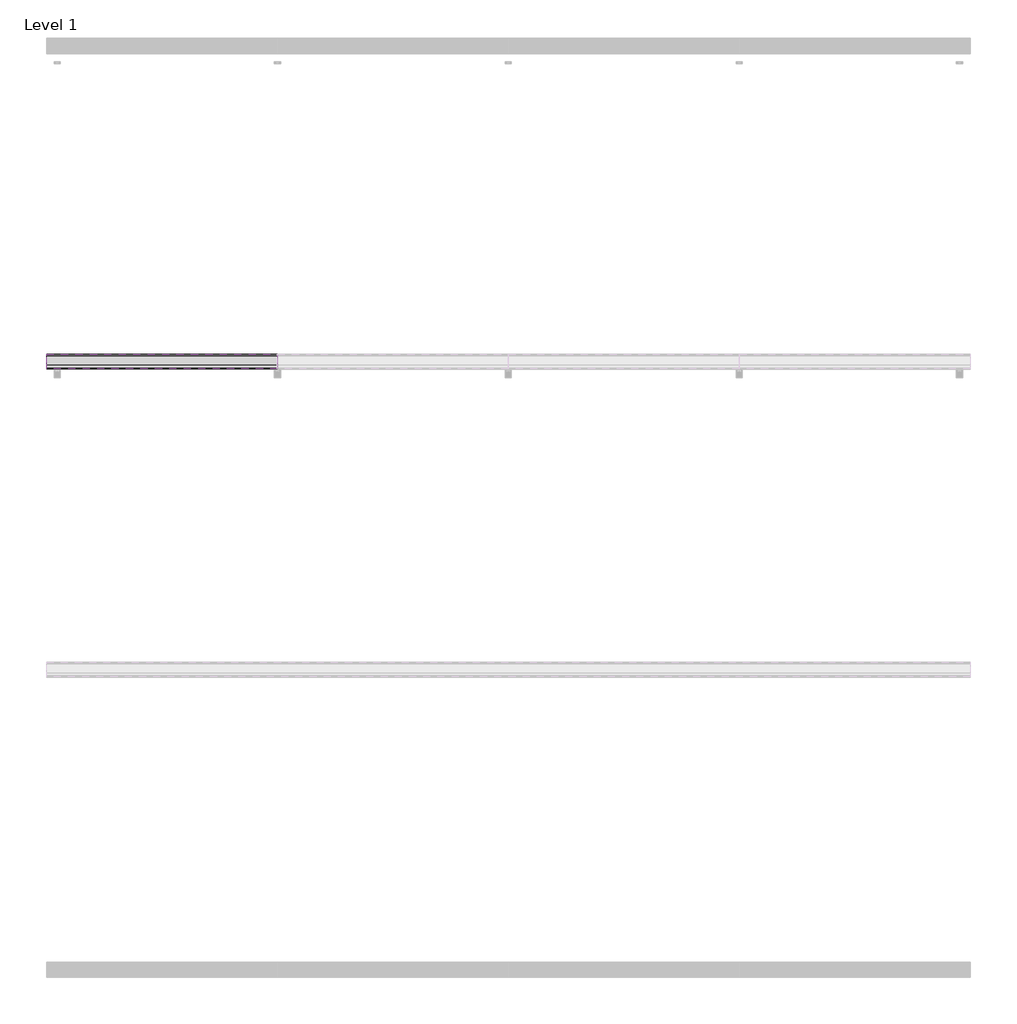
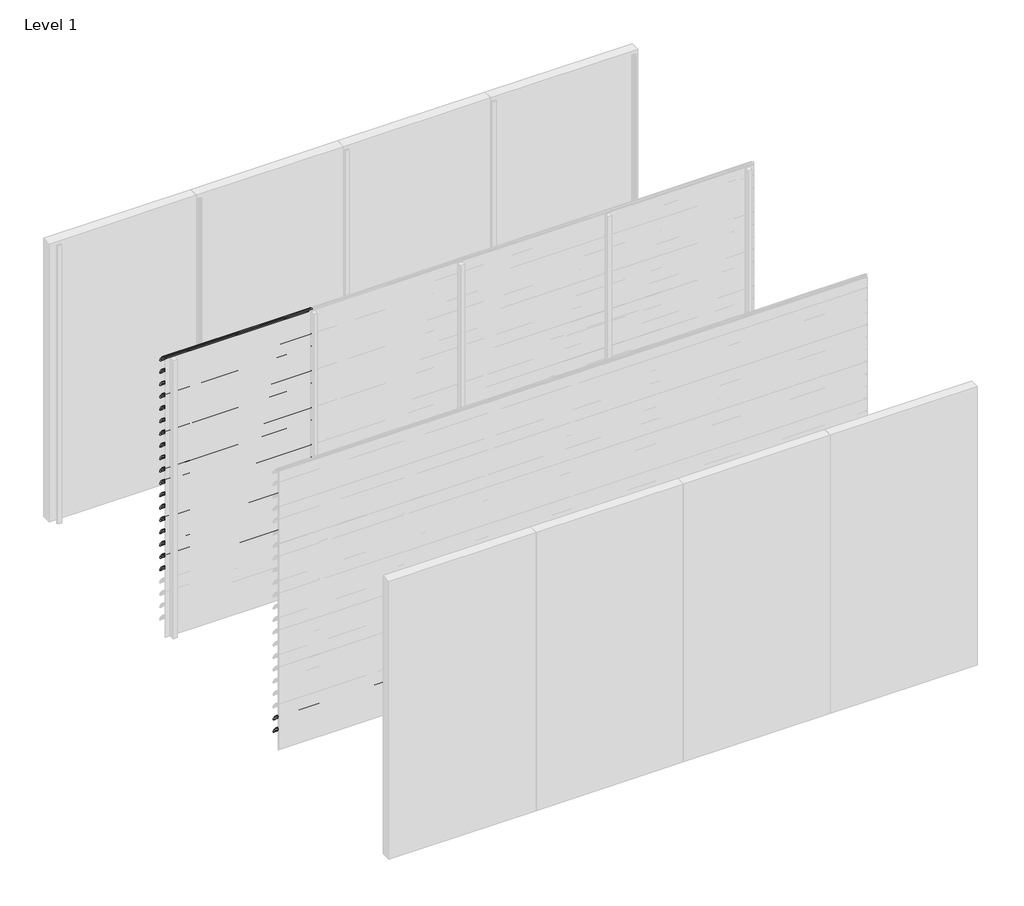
# One storey, part 26 of 57: 20 proxies.
"""IFC4 building model written with IfcOpenShell, lengths in millimetres."""

from ifc_helpers import new_model, si_unit, point, frame, frame_2d, origin, place, context, project, spatial, polyline, circle_curve, trimmed, segment, composite_curve, outline, extrude, element, save

model = new_model("IFC4")

# Units and contexts
model_context = context("Model", 3, world=origin())
ifc_project = project(units=[si_unit("LENGTHUNIT", "METRE", prefix="MILLI")], contexts=[model_context])

# Site, building, storey
site = spatial("IfcSite", under=ifc_project)
building = spatial("IfcBuilding", under=site)
storey = spatial("IfcBuildingStorey", under=building, Name="Level 1", Elevation=0.0)

# Proxies
placement = place(None, origin())
element("IfcBuildingElementProxy", 1, Name="Wall Sweeps", at=placement, inside=storey, context=model_context, shape_type="SweptSolid", body=[
    extrude(outline(composite_curve([segment(trimmed(circle_curve(frame_2d((-29993.7822526, 3016.4913792)), 4.2177474), [point((-29989.6985606, 3017.5462976))], [point((-29993.7822526, 3020.7091266))], False, "CARTESIAN"), True, "CONTINUOUS"), segment(trimmed(circle_curve(frame_2d((-30018.7150834, 2918.2536312)), 105.4456002), [point((-29993.7822526, 3020.7091266))], [point((-29971.7914298, 3012.6832099))], False, "CARTESIAN"), True, "CONTINUOUS"), segment(trimmed(circle_curve(frame_2d((-30061.7199745, 2864.0352476)), 173.7335887), [point((-29971.7914298, 3012.6832099))], [point((-29913.0720121, 2953.9637922))], False, "CARTESIAN"), True, "CONTINUOUS"), segment(trimmed(circle_curve(frame_2d((-30004.9297178, 2902.1860314)), 105.4456002), [point((-29913.0720121, 2953.9637922))], [point((-29903.6249616, 2931.4455765))], False, "CARTESIAN"), True, "CONTINUOUS"), segment(trimmed(circle_curve(frame_2d((-29907.809737, 2930.3307305)), 4.3307305), [point((-29903.6249616, 2931.4455765))], [point((-29909.0769196, 2926.189538))], False, "CARTESIAN"), True, "CONTINUOUS"), segment(polyline([(-29909.0769196, 2926.189538), (-29934.7401984, 2950.9722783)]), True, "CONTINUOUS"), segment(trimmed(circle_curve(frame_2d((-29931.3879574, 2953.2977626)), 4.079877), [point((-29934.7401984, 2950.9722783))], [point((-29930.7310597, 2957.3244091))], False, "CARTESIAN"), True, "CONTINUOUS"), segment(trimmed(circle_curve(frame_2d((-30014.6665585, 2935.2544323)), 86.7885467), [point((-29930.7310597, 2957.3244091))], [point((-29942.3028351, 2983.1683485))], True, "CARTESIAN"), True, "CONTINUOUS"), segment(polyline([(-29942.3028351, 2983.1683485), (-29940.7230099, 2985.9046861)]), True, "CONTINUOUS"), segment(trimmed(circle_curve(frame_2d((-30061.7199745, 2864.0352476)), 171.7335887), [point((-29940.7230099, 2985.9046861))], [point((-29972.7555872, 3010.9289618))], True, "CARTESIAN"), True, "CONTINUOUS"), segment(trimmed(circle_curve(frame_2d((-30018.7150834, 2918.2536312)), 103.4456002), [point((-29972.7555872, 3010.9289618))], [point((-29989.6985606, 3017.5462976))], True, "CARTESIAN"), True, "CONTINUOUS")], self_intersect=False)), frame((0.0, 0.0, 0.0), z_axis=(1.0, 0.0, 0.0), x_axis=(0.0, 1.0, 0.0)), (0.0, 0.0, 1.0), 1500.0),
])
element("IfcBuildingElementProxy", 2, Name="Wall Sweeps", at=placement, inside=storey, context=model_context, shape_type="SweptSolid", body=[
    extrude(outline(composite_curve([segment(trimmed(circle_curve(frame_2d((-29993.7822526, 2883.4913792)), 4.2177474), [point((-29989.6985606, 2884.5462976))], [point((-29993.7822526, 2887.7091266))], False, "CARTESIAN"), True, "CONTINUOUS"), segment(trimmed(circle_curve(frame_2d((-30018.7150834, 2785.2536312)), 105.4456002), [point((-29993.7822526, 2887.7091266))], [point((-29971.7914298, 2879.6832099))], False, "CARTESIAN"), True, "CONTINUOUS"), segment(trimmed(circle_curve(frame_2d((-30061.7199745, 2731.0352476)), 173.7335887), [point((-29971.7914298, 2879.6832099))], [point((-29913.0720121, 2820.9637922))], False, "CARTESIAN"), True, "CONTINUOUS"), segment(trimmed(circle_curve(frame_2d((-30004.9297178, 2769.1860314)), 105.4456002), [point((-29913.0720121, 2820.9637922))], [point((-29903.6249616, 2798.4455765))], False, "CARTESIAN"), True, "CONTINUOUS"), segment(trimmed(circle_curve(frame_2d((-29907.809737, 2797.3307305)), 4.3307305), [point((-29903.6249616, 2798.4455765))], [point((-29909.0769196, 2793.189538))], False, "CARTESIAN"), True, "CONTINUOUS"), segment(polyline([(-29909.0769196, 2793.189538), (-29934.7401984, 2817.9722783)]), True, "CONTINUOUS"), segment(trimmed(circle_curve(frame_2d((-29931.3879574, 2820.2977626)), 4.079877), [point((-29934.7401984, 2817.9722783))], [point((-29930.7310597, 2824.3244091))], False, "CARTESIAN"), True, "CONTINUOUS"), segment(trimmed(circle_curve(frame_2d((-30014.6665585, 2802.2544323)), 86.7885467), [point((-29930.7310597, 2824.3244091))], [point((-29942.3028351, 2850.1683485))], True, "CARTESIAN"), True, "CONTINUOUS"), segment(polyline([(-29942.3028351, 2850.1683485), (-29940.7230099, 2852.9046861)]), True, "CONTINUOUS"), segment(trimmed(circle_curve(frame_2d((-30061.7199745, 2731.0352476)), 171.7335887), [point((-29940.7230099, 2852.9046861))], [point((-29972.7555872, 2877.9289618))], True, "CARTESIAN"), True, "CONTINUOUS"), segment(trimmed(circle_curve(frame_2d((-30018.7150834, 2785.2536312)), 103.4456002), [point((-29972.7555872, 2877.9289618))], [point((-29989.6985606, 2884.5462976))], True, "CARTESIAN"), True, "CONTINUOUS")], self_intersect=False)), frame((0.0, 0.0, 0.0), z_axis=(1.0, 0.0, 0.0), x_axis=(0.0, 1.0, 0.0)), (0.0, 0.0, 1.0), 1500.0),
])
element("IfcBuildingElementProxy", 3, Name="Wall Sweeps", at=placement, inside=storey, context=model_context, shape_type="SweptSolid", body=[
    extrude(outline(composite_curve([segment(trimmed(circle_curve(frame_2d((-29993.7822526, 2750.4913792)), 4.2177474), [point((-29989.6985606, 2751.5462976))], [point((-29993.7822526, 2754.7091266))], False, "CARTESIAN"), True, "CONTINUOUS"), segment(trimmed(circle_curve(frame_2d((-30018.7150834, 2652.2536312)), 105.4456002), [point((-29993.7822526, 2754.7091266))], [point((-29971.7914298, 2746.6832099))], False, "CARTESIAN"), True, "CONTINUOUS"), segment(trimmed(circle_curve(frame_2d((-30061.7199745, 2598.0352476)), 173.7335887), [point((-29971.7914298, 2746.6832099))], [point((-29913.0720121, 2687.9637922))], False, "CARTESIAN"), True, "CONTINUOUS"), segment(trimmed(circle_curve(frame_2d((-30004.9297178, 2636.1860314)), 105.4456002), [point((-29913.0720121, 2687.9637922))], [point((-29903.6249616, 2665.4455765))], False, "CARTESIAN"), True, "CONTINUOUS"), segment(trimmed(circle_curve(frame_2d((-29907.809737, 2664.3307305)), 4.3307305), [point((-29903.6249616, 2665.4455765))], [point((-29909.0769196, 2660.189538))], False, "CARTESIAN"), True, "CONTINUOUS"), segment(polyline([(-29909.0769196, 2660.189538), (-29934.7401984, 2684.9722783)]), True, "CONTINUOUS"), segment(trimmed(circle_curve(frame_2d((-29931.3879574, 2687.2977626)), 4.079877), [point((-29934.7401984, 2684.9722783))], [point((-29930.7310597, 2691.3244091))], False, "CARTESIAN"), True, "CONTINUOUS"), segment(trimmed(circle_curve(frame_2d((-30014.6665585, 2669.2544323)), 86.7885467), [point((-29930.7310597, 2691.3244091))], [point((-29942.3028351, 2717.1683485))], True, "CARTESIAN"), True, "CONTINUOUS"), segment(polyline([(-29942.3028351, 2717.1683485), (-29940.7230099, 2719.9046861)]), True, "CONTINUOUS"), segment(trimmed(circle_curve(frame_2d((-30061.7199745, 2598.0352476)), 171.7335887), [point((-29940.7230099, 2719.9046861))], [point((-29972.7555872, 2744.9289618))], True, "CARTESIAN"), True, "CONTINUOUS"), segment(trimmed(circle_curve(frame_2d((-30018.7150834, 2652.2536312)), 103.4456002), [point((-29972.7555872, 2744.9289618))], [point((-29989.6985606, 2751.5462976))], True, "CARTESIAN"), True, "CONTINUOUS")], self_intersect=False)), frame((0.0, 0.0, 0.0), z_axis=(1.0, 0.0, 0.0), x_axis=(0.0, 1.0, 0.0)), (0.0, 0.0, 1.0), 1500.0),
])
element("IfcBuildingElementProxy", 4, Name="Wall Sweeps", at=placement, inside=storey, context=model_context, shape_type="SweptSolid", body=[
    extrude(outline(composite_curve([segment(trimmed(circle_curve(frame_2d((-29993.7822526, 2617.4913792)), 4.2177474), [point((-29989.6985606, 2618.5462976))], [point((-29993.7822526, 2621.7091266))], False, "CARTESIAN"), True, "CONTINUOUS"), segment(trimmed(circle_curve(frame_2d((-30018.7150834, 2519.2536312)), 105.4456002), [point((-29993.7822526, 2621.7091266))], [point((-29971.7914298, 2613.6832099))], False, "CARTESIAN"), True, "CONTINUOUS"), segment(trimmed(circle_curve(frame_2d((-30061.7199745, 2465.0352476)), 173.7335887), [point((-29971.7914298, 2613.6832099))], [point((-29913.0720121, 2554.9637922))], False, "CARTESIAN"), True, "CONTINUOUS"), segment(trimmed(circle_curve(frame_2d((-30004.9297178, 2503.1860314)), 105.4456002), [point((-29913.0720121, 2554.9637922))], [point((-29903.6249616, 2532.4455765))], False, "CARTESIAN"), True, "CONTINUOUS"), segment(trimmed(circle_curve(frame_2d((-29907.809737, 2531.3307305)), 4.3307305), [point((-29903.6249616, 2532.4455765))], [point((-29909.0769196, 2527.189538))], False, "CARTESIAN"), True, "CONTINUOUS"), segment(polyline([(-29909.0769196, 2527.189538), (-29934.7401984, 2551.9722783)]), True, "CONTINUOUS"), segment(trimmed(circle_curve(frame_2d((-29931.3879574, 2554.2977626)), 4.079877), [point((-29934.7401984, 2551.9722783))], [point((-29930.7310597, 2558.3244091))], False, "CARTESIAN"), True, "CONTINUOUS"), segment(trimmed(circle_curve(frame_2d((-30014.6665585, 2536.2544323)), 86.7885467), [point((-29930.7310597, 2558.3244091))], [point((-29942.3028351, 2584.1683485))], True, "CARTESIAN"), True, "CONTINUOUS"), segment(polyline([(-29942.3028351, 2584.1683485), (-29940.7230099, 2586.9046861)]), True, "CONTINUOUS"), segment(trimmed(circle_curve(frame_2d((-30061.7199745, 2465.0352476)), 171.7335887), [point((-29940.7230099, 2586.9046861))], [point((-29972.7555872, 2611.9289618))], True, "CARTESIAN"), True, "CONTINUOUS"), segment(trimmed(circle_curve(frame_2d((-30018.7150834, 2519.2536312)), 103.4456002), [point((-29972.7555872, 2611.9289618))], [point((-29989.6985606, 2618.5462976))], True, "CARTESIAN"), True, "CONTINUOUS")], self_intersect=False)), frame((0.0, 0.0, 0.0), z_axis=(1.0, 0.0, 0.0), x_axis=(0.0, 1.0, 0.0)), (0.0, 0.0, 1.0), 1500.0),
])
element("IfcBuildingElementProxy", 5, Name="Wall Sweeps", at=placement, inside=storey, context=model_context, shape_type="SweptSolid", body=[
    extrude(outline(composite_curve([segment(trimmed(circle_curve(frame_2d((-29993.7822526, 2484.4913792)), 4.2177474), [point((-29989.6985606, 2485.5462976))], [point((-29993.7822526, 2488.7091266))], False, "CARTESIAN"), True, "CONTINUOUS"), segment(trimmed(circle_curve(frame_2d((-30018.7150834, 2386.2536312)), 105.4456002), [point((-29993.7822526, 2488.7091266))], [point((-29971.7914298, 2480.6832099))], False, "CARTESIAN"), True, "CONTINUOUS"), segment(trimmed(circle_curve(frame_2d((-30061.7199745, 2332.0352476)), 173.7335887), [point((-29971.7914298, 2480.6832099))], [point((-29913.0720121, 2421.9637922))], False, "CARTESIAN"), True, "CONTINUOUS"), segment(trimmed(circle_curve(frame_2d((-30004.9297178, 2370.1860314)), 105.4456002), [point((-29913.0720121, 2421.9637922))], [point((-29903.6249616, 2399.4455765))], False, "CARTESIAN"), True, "CONTINUOUS"), segment(trimmed(circle_curve(frame_2d((-29907.809737, 2398.3307305)), 4.3307305), [point((-29903.6249616, 2399.4455765))], [point((-29909.0769196, 2394.189538))], False, "CARTESIAN"), True, "CONTINUOUS"), segment(polyline([(-29909.0769196, 2394.189538), (-29934.7401984, 2418.9722783)]), True, "CONTINUOUS"), segment(trimmed(circle_curve(frame_2d((-29931.3879574, 2421.2977626)), 4.079877), [point((-29934.7401984, 2418.9722783))], [point((-29930.7310597, 2425.3244091))], False, "CARTESIAN"), True, "CONTINUOUS"), segment(trimmed(circle_curve(frame_2d((-30014.6665585, 2403.2544323)), 86.7885467), [point((-29930.7310597, 2425.3244091))], [point((-29942.3028351, 2451.1683485))], True, "CARTESIAN"), True, "CONTINUOUS"), segment(polyline([(-29942.3028351, 2451.1683485), (-29940.7230099, 2453.9046861)]), True, "CONTINUOUS"), segment(trimmed(circle_curve(frame_2d((-30061.7199745, 2332.0352476)), 171.7335887), [point((-29940.7230099, 2453.9046861))], [point((-29972.7555872, 2478.9289618))], True, "CARTESIAN"), True, "CONTINUOUS"), segment(trimmed(circle_curve(frame_2d((-30018.7150834, 2386.2536312)), 103.4456002), [point((-29972.7555872, 2478.9289618))], [point((-29989.6985606, 2485.5462976))], True, "CARTESIAN"), True, "CONTINUOUS")], self_intersect=False)), frame((0.0, 0.0, 0.0), z_axis=(1.0, 0.0, 0.0), x_axis=(0.0, 1.0, 0.0)), (0.0, 0.0, 1.0), 1500.0),
])
element("IfcBuildingElementProxy", 6, Name="Wall Sweeps", at=placement, inside=storey, context=model_context, shape_type="SweptSolid", body=[
    extrude(outline(composite_curve([segment(trimmed(circle_curve(frame_2d((-29993.7822526, 2351.4913792)), 4.2177474), [point((-29989.6985606, 2352.5462976))], [point((-29993.7822526, 2355.7091266))], False, "CARTESIAN"), True, "CONTINUOUS"), segment(trimmed(circle_curve(frame_2d((-30018.7150834, 2253.2536312)), 105.4456002), [point((-29993.7822526, 2355.7091266))], [point((-29971.7914298, 2347.6832099))], False, "CARTESIAN"), True, "CONTINUOUS"), segment(trimmed(circle_curve(frame_2d((-30061.7199745, 2199.0352476)), 173.7335887), [point((-29971.7914298, 2347.6832099))], [point((-29913.0720121, 2288.9637922))], False, "CARTESIAN"), True, "CONTINUOUS"), segment(trimmed(circle_curve(frame_2d((-30004.9297178, 2237.1860314)), 105.4456002), [point((-29913.0720121, 2288.9637922))], [point((-29903.6249616, 2266.4455765))], False, "CARTESIAN"), True, "CONTINUOUS"), segment(trimmed(circle_curve(frame_2d((-29907.809737, 2265.3307305)), 4.3307305), [point((-29903.6249616, 2266.4455765))], [point((-29909.0769196, 2261.189538))], False, "CARTESIAN"), True, "CONTINUOUS"), segment(polyline([(-29909.0769196, 2261.189538), (-29934.7401984, 2285.9722783)]), True, "CONTINUOUS"), segment(trimmed(circle_curve(frame_2d((-29931.3879574, 2288.2977626)), 4.079877), [point((-29934.7401984, 2285.9722783))], [point((-29930.7310597, 2292.3244091))], False, "CARTESIAN"), True, "CONTINUOUS"), segment(trimmed(circle_curve(frame_2d((-30014.6665585, 2270.2544323)), 86.7885467), [point((-29930.7310597, 2292.3244091))], [point((-29942.3028351, 2318.1683485))], True, "CARTESIAN"), True, "CONTINUOUS"), segment(polyline([(-29942.3028351, 2318.1683485), (-29940.7230099, 2320.9046861)]), True, "CONTINUOUS"), segment(trimmed(circle_curve(frame_2d((-30061.7199745, 2199.0352476)), 171.7335887), [point((-29940.7230099, 2320.9046861))], [point((-29972.7555872, 2345.9289618))], True, "CARTESIAN"), True, "CONTINUOUS"), segment(trimmed(circle_curve(frame_2d((-30018.7150834, 2253.2536312)), 103.4456002), [point((-29972.7555872, 2345.9289618))], [point((-29989.6985606, 2352.5462976))], True, "CARTESIAN"), True, "CONTINUOUS")], self_intersect=False)), frame((0.0, 0.0, 0.0), z_axis=(1.0, 0.0, 0.0), x_axis=(0.0, 1.0, 0.0)), (0.0, 0.0, 1.0), 1500.0),
])
element("IfcBuildingElementProxy", 7, Name="Wall Sweeps", at=placement, inside=storey, context=model_context, shape_type="SweptSolid", body=[
    extrude(outline(composite_curve([segment(trimmed(circle_curve(frame_2d((-29993.7822526, 2218.4913792)), 4.2177474), [point((-29989.6985606, 2219.5462976))], [point((-29993.7822526, 2222.7091266))], False, "CARTESIAN"), True, "CONTINUOUS"), segment(trimmed(circle_curve(frame_2d((-30018.7150834, 2120.2536312)), 105.4456002), [point((-29993.7822526, 2222.7091266))], [point((-29971.7914298, 2214.6832099))], False, "CARTESIAN"), True, "CONTINUOUS"), segment(trimmed(circle_curve(frame_2d((-30061.7199745, 2066.0352476)), 173.7335887), [point((-29971.7914298, 2214.6832099))], [point((-29913.0720121, 2155.9637922))], False, "CARTESIAN"), True, "CONTINUOUS"), segment(trimmed(circle_curve(frame_2d((-30004.9297178, 2104.1860314)), 105.4456002), [point((-29913.0720121, 2155.9637922))], [point((-29903.6249616, 2133.4455765))], False, "CARTESIAN"), True, "CONTINUOUS"), segment(trimmed(circle_curve(frame_2d((-29907.809737, 2132.3307305)), 4.3307305), [point((-29903.6249616, 2133.4455765))], [point((-29909.0769196, 2128.189538))], False, "CARTESIAN"), True, "CONTINUOUS"), segment(polyline([(-29909.0769196, 2128.189538), (-29934.7401984, 2152.9722783)]), True, "CONTINUOUS"), segment(trimmed(circle_curve(frame_2d((-29931.3879574, 2155.2977626)), 4.079877), [point((-29934.7401984, 2152.9722783))], [point((-29930.7310597, 2159.3244091))], False, "CARTESIAN"), True, "CONTINUOUS"), segment(trimmed(circle_curve(frame_2d((-30014.6665585, 2137.2544323)), 86.7885467), [point((-29930.7310597, 2159.3244091))], [point((-29942.3028351, 2185.1683485))], True, "CARTESIAN"), True, "CONTINUOUS"), segment(polyline([(-29942.3028351, 2185.1683485), (-29940.7230099, 2187.9046861)]), True, "CONTINUOUS"), segment(trimmed(circle_curve(frame_2d((-30061.7199745, 2066.0352476)), 171.7335887), [point((-29940.7230099, 2187.9046861))], [point((-29972.7555872, 2212.9289618))], True, "CARTESIAN"), True, "CONTINUOUS"), segment(trimmed(circle_curve(frame_2d((-30018.7150834, 2120.2536312)), 103.4456002), [point((-29972.7555872, 2212.9289618))], [point((-29989.6985606, 2219.5462976))], True, "CARTESIAN"), True, "CONTINUOUS")], self_intersect=False)), frame((0.0, 0.0, 0.0), z_axis=(1.0, 0.0, 0.0), x_axis=(0.0, 1.0, 0.0)), (0.0, 0.0, 1.0), 1500.0),
])
element("IfcBuildingElementProxy", 8, Name="Wall Sweeps", at=placement, inside=storey, context=model_context, shape_type="SweptSolid", body=[
    extrude(outline(composite_curve([segment(trimmed(circle_curve(frame_2d((-29993.7822526, 2085.4913792)), 4.2177474), [point((-29989.6985606, 2086.5462976))], [point((-29993.7822526, 2089.7091266))], False, "CARTESIAN"), True, "CONTINUOUS"), segment(trimmed(circle_curve(frame_2d((-30018.7150834, 1987.2536312)), 105.4456002), [point((-29993.7822526, 2089.7091266))], [point((-29971.7914298, 2081.6832099))], False, "CARTESIAN"), True, "CONTINUOUS"), segment(trimmed(circle_curve(frame_2d((-30061.7199745, 1933.0352476)), 173.7335887), [point((-29971.7914298, 2081.6832099))], [point((-29913.0720121, 2022.9637922))], False, "CARTESIAN"), True, "CONTINUOUS"), segment(trimmed(circle_curve(frame_2d((-30004.9297178, 1971.1860314)), 105.4456002), [point((-29913.0720121, 2022.9637922))], [point((-29903.6249616, 2000.4455765))], False, "CARTESIAN"), True, "CONTINUOUS"), segment(trimmed(circle_curve(frame_2d((-29907.809737, 1999.3307305)), 4.3307305), [point((-29903.6249616, 2000.4455765))], [point((-29909.0769196, 1995.189538))], False, "CARTESIAN"), True, "CONTINUOUS"), segment(polyline([(-29909.0769196, 1995.189538), (-29934.7401984, 2019.9722783)]), True, "CONTINUOUS"), segment(trimmed(circle_curve(frame_2d((-29931.3879574, 2022.2977626)), 4.079877), [point((-29934.7401984, 2019.9722783))], [point((-29930.7310597, 2026.3244091))], False, "CARTESIAN"), True, "CONTINUOUS"), segment(trimmed(circle_curve(frame_2d((-30014.6665585, 2004.2544323)), 86.7885467), [point((-29930.7310597, 2026.3244091))], [point((-29942.3028351, 2052.1683485))], True, "CARTESIAN"), True, "CONTINUOUS"), segment(polyline([(-29942.3028351, 2052.1683485), (-29940.7230099, 2054.9046861)]), True, "CONTINUOUS"), segment(trimmed(circle_curve(frame_2d((-30061.7199745, 1933.0352476)), 171.7335887), [point((-29940.7230099, 2054.9046861))], [point((-29972.7555872, 2079.9289618))], True, "CARTESIAN"), True, "CONTINUOUS"), segment(trimmed(circle_curve(frame_2d((-30018.7150834, 1987.2536312)), 103.4456002), [point((-29972.7555872, 2079.9289618))], [point((-29989.6985606, 2086.5462976))], True, "CARTESIAN"), True, "CONTINUOUS")], self_intersect=False)), frame((0.0, 0.0, 0.0), z_axis=(1.0, 0.0, 0.0), x_axis=(0.0, 1.0, 0.0)), (0.0, 0.0, 1.0), 1500.0),
])
element("IfcBuildingElementProxy", 9, Name="Wall Sweeps", at=placement, inside=storey, context=model_context, shape_type="SweptSolid", body=[
    extrude(outline(composite_curve([segment(trimmed(circle_curve(frame_2d((-29993.7822526, 1952.4913792)), 4.2177474), [point((-29989.6985606, 1953.5462976))], [point((-29993.7822526, 1956.7091266))], False, "CARTESIAN"), True, "CONTINUOUS"), segment(trimmed(circle_curve(frame_2d((-30018.7150834, 1854.2536312)), 105.4456002), [point((-29993.7822526, 1956.7091266))], [point((-29971.7914298, 1948.6832099))], False, "CARTESIAN"), True, "CONTINUOUS"), segment(trimmed(circle_curve(frame_2d((-30061.7199745, 1800.0352476)), 173.7335887), [point((-29971.7914298, 1948.6832099))], [point((-29913.0720121, 1889.9637922))], False, "CARTESIAN"), True, "CONTINUOUS"), segment(trimmed(circle_curve(frame_2d((-30004.9297178, 1838.1860314)), 105.4456002), [point((-29913.0720121, 1889.9637922))], [point((-29903.6249616, 1867.4455765))], False, "CARTESIAN"), True, "CONTINUOUS"), segment(trimmed(circle_curve(frame_2d((-29907.809737, 1866.3307305)), 4.3307305), [point((-29903.6249616, 1867.4455765))], [point((-29909.0769196, 1862.189538))], False, "CARTESIAN"), True, "CONTINUOUS"), segment(polyline([(-29909.0769196, 1862.189538), (-29934.7401984, 1886.9722783)]), True, "CONTINUOUS"), segment(trimmed(circle_curve(frame_2d((-29931.3879574, 1889.2977626)), 4.079877), [point((-29934.7401984, 1886.9722783))], [point((-29930.7310597, 1893.3244091))], False, "CARTESIAN"), True, "CONTINUOUS"), segment(trimmed(circle_curve(frame_2d((-30014.6665585, 1871.2544323)), 86.7885467), [point((-29930.7310597, 1893.3244091))], [point((-29942.3028351, 1919.1683485))], True, "CARTESIAN"), True, "CONTINUOUS"), segment(polyline([(-29942.3028351, 1919.1683485), (-29940.7230099, 1921.9046861)]), True, "CONTINUOUS"), segment(trimmed(circle_curve(frame_2d((-30061.7199745, 1800.0352476)), 171.7335887), [point((-29940.7230099, 1921.9046861))], [point((-29972.7555872, 1946.9289618))], True, "CARTESIAN"), True, "CONTINUOUS"), segment(trimmed(circle_curve(frame_2d((-30018.7150834, 1854.2536312)), 103.4456002), [point((-29972.7555872, 1946.9289618))], [point((-29989.6985606, 1953.5462976))], True, "CARTESIAN"), True, "CONTINUOUS")], self_intersect=False)), frame((0.0, 0.0, 0.0), z_axis=(1.0, 0.0, 0.0), x_axis=(0.0, 1.0, 0.0)), (0.0, 0.0, 1.0), 1500.0),
])
element("IfcBuildingElementProxy", 10, Name="Wall Sweeps", at=placement, inside=storey, context=model_context, shape_type="SweptSolid", body=[
    extrude(outline(composite_curve([segment(trimmed(circle_curve(frame_2d((-29993.7822526, 1819.4913792)), 4.2177474), [point((-29989.6985606, 1820.5462976))], [point((-29993.7822526, 1823.7091266))], False, "CARTESIAN"), True, "CONTINUOUS"), segment(trimmed(circle_curve(frame_2d((-30018.7150834, 1721.2536312)), 105.4456002), [point((-29993.7822526, 1823.7091266))], [point((-29971.7914298, 1815.6832099))], False, "CARTESIAN"), True, "CONTINUOUS"), segment(trimmed(circle_curve(frame_2d((-30061.7199745, 1667.0352476)), 173.7335887), [point((-29971.7914298, 1815.6832099))], [point((-29913.0720121, 1756.9637922))], False, "CARTESIAN"), True, "CONTINUOUS"), segment(trimmed(circle_curve(frame_2d((-30004.9297178, 1705.1860314)), 105.4456002), [point((-29913.0720121, 1756.9637922))], [point((-29903.6249616, 1734.4455765))], False, "CARTESIAN"), True, "CONTINUOUS"), segment(trimmed(circle_curve(frame_2d((-29907.809737, 1733.3307305)), 4.3307305), [point((-29903.6249616, 1734.4455765))], [point((-29909.0769196, 1729.189538))], False, "CARTESIAN"), True, "CONTINUOUS"), segment(polyline([(-29909.0769196, 1729.189538), (-29934.7401984, 1753.9722783)]), True, "CONTINUOUS"), segment(trimmed(circle_curve(frame_2d((-29931.3879574, 1756.2977626)), 4.079877), [point((-29934.7401984, 1753.9722783))], [point((-29930.7310597, 1760.3244091))], False, "CARTESIAN"), True, "CONTINUOUS"), segment(trimmed(circle_curve(frame_2d((-30014.6665585, 1738.2544323)), 86.7885467), [point((-29930.7310597, 1760.3244091))], [point((-29942.3028351, 1786.1683485))], True, "CARTESIAN"), True, "CONTINUOUS"), segment(polyline([(-29942.3028351, 1786.1683485), (-29940.7230099, 1788.9046861)]), True, "CONTINUOUS"), segment(trimmed(circle_curve(frame_2d((-30061.7199745, 1667.0352476)), 171.7335887), [point((-29940.7230099, 1788.9046861))], [point((-29972.7555872, 1813.9289618))], True, "CARTESIAN"), True, "CONTINUOUS"), segment(trimmed(circle_curve(frame_2d((-30018.7150834, 1721.2536312)), 103.4456002), [point((-29972.7555872, 1813.9289618))], [point((-29989.6985606, 1820.5462976))], True, "CARTESIAN"), True, "CONTINUOUS")], self_intersect=False)), frame((0.0, 0.0, 0.0), z_axis=(1.0, 0.0, 0.0), x_axis=(0.0, 1.0, 0.0)), (0.0, 0.0, 1.0), 1500.0),
])
element("IfcBuildingElementProxy", 11, Name="Wall Sweeps", at=placement, inside=storey, context=model_context, shape_type="SweptSolid", body=[
    extrude(outline(composite_curve([segment(trimmed(circle_curve(frame_2d((-29993.7822526, 1686.4913792)), 4.2177474), [point((-29989.6985606, 1687.5462976))], [point((-29993.7822526, 1690.7091266))], False, "CARTESIAN"), True, "CONTINUOUS"), segment(trimmed(circle_curve(frame_2d((-30018.7150834, 1588.2536312)), 105.4456002), [point((-29993.7822526, 1690.7091266))], [point((-29971.7914298, 1682.6832099))], False, "CARTESIAN"), True, "CONTINUOUS"), segment(trimmed(circle_curve(frame_2d((-30061.7199745, 1534.0352476)), 173.7335887), [point((-29971.7914298, 1682.6832099))], [point((-29913.0720121, 1623.9637922))], False, "CARTESIAN"), True, "CONTINUOUS"), segment(trimmed(circle_curve(frame_2d((-30004.9297178, 1572.1860314)), 105.4456002), [point((-29913.0720121, 1623.9637922))], [point((-29903.6249616, 1601.4455765))], False, "CARTESIAN"), True, "CONTINUOUS"), segment(trimmed(circle_curve(frame_2d((-29907.809737, 1600.3307305)), 4.3307305), [point((-29903.6249616, 1601.4455765))], [point((-29909.0769196, 1596.189538))], False, "CARTESIAN"), True, "CONTINUOUS"), segment(polyline([(-29909.0769196, 1596.189538), (-29934.7401984, 1620.9722783)]), True, "CONTINUOUS"), segment(trimmed(circle_curve(frame_2d((-29931.3879574, 1623.2977626)), 4.079877), [point((-29934.7401984, 1620.9722783))], [point((-29930.7310597, 1627.3244091))], False, "CARTESIAN"), True, "CONTINUOUS"), segment(trimmed(circle_curve(frame_2d((-30014.6665585, 1605.2544323)), 86.7885467), [point((-29930.7310597, 1627.3244091))], [point((-29942.3028351, 1653.1683485))], True, "CARTESIAN"), True, "CONTINUOUS"), segment(polyline([(-29942.3028351, 1653.1683485), (-29940.7230099, 1655.9046861)]), True, "CONTINUOUS"), segment(trimmed(circle_curve(frame_2d((-30061.7199745, 1534.0352476)), 171.7335887), [point((-29940.7230099, 1655.9046861))], [point((-29972.7555872, 1680.9289618))], True, "CARTESIAN"), True, "CONTINUOUS"), segment(trimmed(circle_curve(frame_2d((-30018.7150834, 1588.2536312)), 103.4456002), [point((-29972.7555872, 1680.9289618))], [point((-29989.6985606, 1687.5462976))], True, "CARTESIAN"), True, "CONTINUOUS")], self_intersect=False)), frame((0.0, 0.0, 0.0), z_axis=(1.0, 0.0, 0.0), x_axis=(0.0, 1.0, 0.0)), (0.0, 0.0, 1.0), 1500.0),
])
element("IfcBuildingElementProxy", 12, Name="Wall Sweeps", at=placement, inside=storey, context=model_context, shape_type="SweptSolid", body=[
    extrude(outline(composite_curve([segment(trimmed(circle_curve(frame_2d((-29993.7822526, 1553.4913792)), 4.2177474), [point((-29989.6985606, 1554.5462976))], [point((-29993.7822526, 1557.7091266))], False, "CARTESIAN"), True, "CONTINUOUS"), segment(trimmed(circle_curve(frame_2d((-30018.7150834, 1455.2536312)), 105.4456002), [point((-29993.7822526, 1557.7091266))], [point((-29971.7914298, 1549.6832099))], False, "CARTESIAN"), True, "CONTINUOUS"), segment(trimmed(circle_curve(frame_2d((-30061.7199745, 1401.0352476)), 173.7335887), [point((-29971.7914298, 1549.6832099))], [point((-29913.0720121, 1490.9637922))], False, "CARTESIAN"), True, "CONTINUOUS"), segment(trimmed(circle_curve(frame_2d((-30004.9297178, 1439.1860314)), 105.4456002), [point((-29913.0720121, 1490.9637922))], [point((-29903.6249616, 1468.4455765))], False, "CARTESIAN"), True, "CONTINUOUS"), segment(trimmed(circle_curve(frame_2d((-29907.809737, 1467.3307305)), 4.3307305), [point((-29903.6249616, 1468.4455765))], [point((-29909.0769196, 1463.189538))], False, "CARTESIAN"), True, "CONTINUOUS"), segment(polyline([(-29909.0769196, 1463.189538), (-29934.7401984, 1487.9722783)]), True, "CONTINUOUS"), segment(trimmed(circle_curve(frame_2d((-29931.3879574, 1490.2977626)), 4.079877), [point((-29934.7401984, 1487.9722783))], [point((-29930.7310597, 1494.3244091))], False, "CARTESIAN"), True, "CONTINUOUS"), segment(trimmed(circle_curve(frame_2d((-30014.6665585, 1472.2544323)), 86.7885467), [point((-29930.7310597, 1494.3244091))], [point((-29942.3028351, 1520.1683485))], True, "CARTESIAN"), True, "CONTINUOUS"), segment(polyline([(-29942.3028351, 1520.1683485), (-29940.7230099, 1522.9046861)]), True, "CONTINUOUS"), segment(trimmed(circle_curve(frame_2d((-30061.7199745, 1401.0352476)), 171.7335887), [point((-29940.7230099, 1522.9046861))], [point((-29972.7555872, 1547.9289618))], True, "CARTESIAN"), True, "CONTINUOUS"), segment(trimmed(circle_curve(frame_2d((-30018.7150834, 1455.2536312)), 103.4456002), [point((-29972.7555872, 1547.9289618))], [point((-29989.6985606, 1554.5462976))], True, "CARTESIAN"), True, "CONTINUOUS")], self_intersect=False)), frame((0.0, 0.0, 0.0), z_axis=(1.0, 0.0, 0.0), x_axis=(0.0, 1.0, 0.0)), (0.0, 0.0, 1.0), 1500.0),
])
element("IfcBuildingElementProxy", 13, Name="Wall Sweeps", at=placement, inside=storey, context=model_context, shape_type="SweptSolid", body=[
    extrude(outline(composite_curve([segment(trimmed(circle_curve(frame_2d((-29993.7822526, 1420.4913792)), 4.2177474), [point((-29989.6985606, 1421.5462976))], [point((-29993.7822526, 1424.7091266))], False, "CARTESIAN"), True, "CONTINUOUS"), segment(trimmed(circle_curve(frame_2d((-30018.7150834, 1322.2536312)), 105.4456002), [point((-29993.7822526, 1424.7091266))], [point((-29971.7914298, 1416.6832099))], False, "CARTESIAN"), True, "CONTINUOUS"), segment(trimmed(circle_curve(frame_2d((-30061.7199745, 1268.0352476)), 173.7335887), [point((-29971.7914298, 1416.6832099))], [point((-29913.0720121, 1357.9637922))], False, "CARTESIAN"), True, "CONTINUOUS"), segment(trimmed(circle_curve(frame_2d((-30004.9297178, 1306.1860314)), 105.4456002), [point((-29913.0720121, 1357.9637922))], [point((-29903.6249616, 1335.4455765))], False, "CARTESIAN"), True, "CONTINUOUS"), segment(trimmed(circle_curve(frame_2d((-29907.809737, 1334.3307305)), 4.3307305), [point((-29903.6249616, 1335.4455765))], [point((-29909.0769196, 1330.189538))], False, "CARTESIAN"), True, "CONTINUOUS"), segment(polyline([(-29909.0769196, 1330.189538), (-29934.7401984, 1354.9722783)]), True, "CONTINUOUS"), segment(trimmed(circle_curve(frame_2d((-29931.3879574, 1357.2977626)), 4.079877), [point((-29934.7401984, 1354.9722783))], [point((-29930.7310597, 1361.3244091))], False, "CARTESIAN"), True, "CONTINUOUS"), segment(trimmed(circle_curve(frame_2d((-30014.6665585, 1339.2544323)), 86.7885467), [point((-29930.7310597, 1361.3244091))], [point((-29942.3028351, 1387.1683485))], True, "CARTESIAN"), True, "CONTINUOUS"), segment(polyline([(-29942.3028351, 1387.1683485), (-29940.7230099, 1389.9046861)]), True, "CONTINUOUS"), segment(trimmed(circle_curve(frame_2d((-30061.7199745, 1268.0352476)), 171.7335887), [point((-29940.7230099, 1389.9046861))], [point((-29972.7555872, 1414.9289618))], True, "CARTESIAN"), True, "CONTINUOUS"), segment(trimmed(circle_curve(frame_2d((-30018.7150834, 1322.2536312)), 103.4456002), [point((-29972.7555872, 1414.9289618))], [point((-29989.6985606, 1421.5462976))], True, "CARTESIAN"), True, "CONTINUOUS")], self_intersect=False)), frame((0.0, 0.0, 0.0), z_axis=(1.0, 0.0, 0.0), x_axis=(0.0, 1.0, 0.0)), (0.0, 0.0, 1.0), 1500.0),
])
element("IfcBuildingElementProxy", 14, Name="Wall Sweeps", at=placement, inside=storey, context=model_context, shape_type="SweptSolid", body=[
    extrude(outline(composite_curve([segment(trimmed(circle_curve(frame_2d((-29993.7822526, 1287.4913792)), 4.2177474), [point((-29989.6985606, 1288.5462976))], [point((-29993.7822526, 1291.7091266))], False, "CARTESIAN"), True, "CONTINUOUS"), segment(trimmed(circle_curve(frame_2d((-30018.7150834, 1189.2536312)), 105.4456002), [point((-29993.7822526, 1291.7091266))], [point((-29971.7914298, 1283.6832099))], False, "CARTESIAN"), True, "CONTINUOUS"), segment(trimmed(circle_curve(frame_2d((-30061.7199745, 1135.0352476)), 173.7335887), [point((-29971.7914298, 1283.6832099))], [point((-29913.0720121, 1224.9637922))], False, "CARTESIAN"), True, "CONTINUOUS"), segment(trimmed(circle_curve(frame_2d((-30004.9297178, 1173.1860314)), 105.4456002), [point((-29913.0720121, 1224.9637922))], [point((-29903.6249616, 1202.4455765))], False, "CARTESIAN"), True, "CONTINUOUS"), segment(trimmed(circle_curve(frame_2d((-29907.809737, 1201.3307305)), 4.3307305), [point((-29903.6249616, 1202.4455765))], [point((-29909.0769196, 1197.189538))], False, "CARTESIAN"), True, "CONTINUOUS"), segment(polyline([(-29909.0769196, 1197.189538), (-29934.7401984, 1221.9722783)]), True, "CONTINUOUS"), segment(trimmed(circle_curve(frame_2d((-29931.3879574, 1224.2977626)), 4.079877), [point((-29934.7401984, 1221.9722783))], [point((-29930.7310597, 1228.3244091))], False, "CARTESIAN"), True, "CONTINUOUS"), segment(trimmed(circle_curve(frame_2d((-30014.6665585, 1206.2544323)), 86.7885467), [point((-29930.7310597, 1228.3244091))], [point((-29942.3028351, 1254.1683485))], True, "CARTESIAN"), True, "CONTINUOUS"), segment(polyline([(-29942.3028351, 1254.1683485), (-29940.7230099, 1256.9046861)]), True, "CONTINUOUS"), segment(trimmed(circle_curve(frame_2d((-30061.7199745, 1135.0352476)), 171.7335887), [point((-29940.7230099, 1256.9046861))], [point((-29972.7555872, 1281.9289618))], True, "CARTESIAN"), True, "CONTINUOUS"), segment(trimmed(circle_curve(frame_2d((-30018.7150834, 1189.2536312)), 103.4456002), [point((-29972.7555872, 1281.9289618))], [point((-29989.6985606, 1288.5462976))], True, "CARTESIAN"), True, "CONTINUOUS")], self_intersect=False)), frame((0.0, 0.0, 0.0), z_axis=(1.0, 0.0, 0.0), x_axis=(0.0, 1.0, 0.0)), (0.0, 0.0, 1.0), 1500.0),
])
element("IfcBuildingElementProxy", 15, Name="Wall Sweeps", at=placement, inside=storey, context=model_context, shape_type="SweptSolid", body=[
    extrude(outline(composite_curve([segment(trimmed(circle_curve(frame_2d((-29993.7822526, 1154.4913792)), 4.2177474), [point((-29989.6985606, 1155.5462976))], [point((-29993.7822526, 1158.7091266))], False, "CARTESIAN"), True, "CONTINUOUS"), segment(trimmed(circle_curve(frame_2d((-30018.7150834, 1056.2536312)), 105.4456002), [point((-29993.7822526, 1158.7091266))], [point((-29971.7914298, 1150.6832099))], False, "CARTESIAN"), True, "CONTINUOUS"), segment(trimmed(circle_curve(frame_2d((-30061.7199745, 1002.0352476)), 173.7335887), [point((-29971.7914298, 1150.6832099))], [point((-29913.0720121, 1091.9637922))], False, "CARTESIAN"), True, "CONTINUOUS"), segment(trimmed(circle_curve(frame_2d((-30004.9297178, 1040.1860314)), 105.4456002), [point((-29913.0720121, 1091.9637922))], [point((-29903.6249616, 1069.4455765))], False, "CARTESIAN"), True, "CONTINUOUS"), segment(trimmed(circle_curve(frame_2d((-29907.809737, 1068.3307305)), 4.3307305), [point((-29903.6249616, 1069.4455765))], [point((-29909.0769196, 1064.189538))], False, "CARTESIAN"), True, "CONTINUOUS"), segment(polyline([(-29909.0769196, 1064.189538), (-29934.7401984, 1088.9722783)]), True, "CONTINUOUS"), segment(trimmed(circle_curve(frame_2d((-29931.3879574, 1091.2977626)), 4.079877), [point((-29934.7401984, 1088.9722783))], [point((-29930.7310597, 1095.3244091))], False, "CARTESIAN"), True, "CONTINUOUS"), segment(trimmed(circle_curve(frame_2d((-30014.6665585, 1073.2544323)), 86.7885467), [point((-29930.7310597, 1095.3244091))], [point((-29942.3028351, 1121.1683485))], True, "CARTESIAN"), True, "CONTINUOUS"), segment(polyline([(-29942.3028351, 1121.1683485), (-29940.7230099, 1123.9046861)]), True, "CONTINUOUS"), segment(trimmed(circle_curve(frame_2d((-30061.7199745, 1002.0352476)), 171.7335887), [point((-29940.7230099, 1123.9046861))], [point((-29972.7555872, 1148.9289618))], True, "CARTESIAN"), True, "CONTINUOUS"), segment(trimmed(circle_curve(frame_2d((-30018.7150834, 1056.2536312)), 103.4456002), [point((-29972.7555872, 1148.9289618))], [point((-29989.6985606, 1155.5462976))], True, "CARTESIAN"), True, "CONTINUOUS")], self_intersect=False)), frame((0.0, 0.0, 0.0), z_axis=(1.0, 0.0, 0.0), x_axis=(0.0, 1.0, 0.0)), (0.0, 0.0, 1.0), 1500.0),
])
element("IfcBuildingElementProxy", 16, Name="Wall Sweeps", at=placement, inside=storey, context=model_context, shape_type="SweptSolid", body=[
    extrude(outline(composite_curve([segment(trimmed(circle_curve(frame_2d((-29993.7822526, 1021.4913792)), 4.2177474), [point((-29989.6985606, 1022.5462976))], [point((-29993.7822526, 1025.7091266))], False, "CARTESIAN"), True, "CONTINUOUS"), segment(trimmed(circle_curve(frame_2d((-30018.7150834, 923.2536312)), 105.4456002), [point((-29993.7822526, 1025.7091266))], [point((-29971.7914298, 1017.6832099))], False, "CARTESIAN"), True, "CONTINUOUS"), segment(trimmed(circle_curve(frame_2d((-30061.7199745, 869.0352476)), 173.7335887), [point((-29971.7914298, 1017.6832099))], [point((-29913.0720121, 958.9637922))], False, "CARTESIAN"), True, "CONTINUOUS"), segment(trimmed(circle_curve(frame_2d((-30004.9297178, 907.1860314)), 105.4456002), [point((-29913.0720121, 958.9637922))], [point((-29903.6249616, 936.4455765))], False, "CARTESIAN"), True, "CONTINUOUS"), segment(trimmed(circle_curve(frame_2d((-29907.809737, 935.3307305)), 4.3307305), [point((-29903.6249616, 936.4455765))], [point((-29909.0769196, 931.189538))], False, "CARTESIAN"), True, "CONTINUOUS"), segment(polyline([(-29909.0769196, 931.189538), (-29934.7401984, 955.9722783)]), True, "CONTINUOUS"), segment(trimmed(circle_curve(frame_2d((-29931.3879574, 958.2977626)), 4.079877), [point((-29934.7401984, 955.9722783))], [point((-29930.7310597, 962.3244091))], False, "CARTESIAN"), True, "CONTINUOUS"), segment(trimmed(circle_curve(frame_2d((-30014.6665585, 940.2544323)), 86.7885467), [point((-29930.7310597, 962.3244091))], [point((-29942.3028351, 988.1683485))], True, "CARTESIAN"), True, "CONTINUOUS"), segment(polyline([(-29942.3028351, 988.1683485), (-29940.7230099, 990.9046861)]), True, "CONTINUOUS"), segment(trimmed(circle_curve(frame_2d((-30061.7199745, 869.0352476)), 171.7335887), [point((-29940.7230099, 990.9046861))], [point((-29972.7555872, 1015.9289618))], True, "CARTESIAN"), True, "CONTINUOUS"), segment(trimmed(circle_curve(frame_2d((-30018.7150834, 923.2536312)), 103.4456002), [point((-29972.7555872, 1015.9289618))], [point((-29989.6985606, 1022.5462976))], True, "CARTESIAN"), True, "CONTINUOUS")], self_intersect=False)), frame((0.0, 0.0, 0.0), z_axis=(1.0, 0.0, 0.0), x_axis=(0.0, 1.0, 0.0)), (0.0, 0.0, 1.0), 1500.0),
])
element("IfcBuildingElementProxy", 17, Name="Wall Sweeps", at=placement, inside=storey, context=model_context, shape_type="SweptSolid", body=[
    extrude(outline(composite_curve([segment(trimmed(circle_curve(frame_2d((-29993.7822526, 888.4913792)), 4.2177474), [point((-29989.6985606, 889.5462976))], [point((-29993.7822526, 892.7091266))], False, "CARTESIAN"), True, "CONTINUOUS"), segment(trimmed(circle_curve(frame_2d((-30018.7150834, 790.2536312)), 105.4456002), [point((-29993.7822526, 892.7091266))], [point((-29971.7914298, 884.6832099))], False, "CARTESIAN"), True, "CONTINUOUS"), segment(trimmed(circle_curve(frame_2d((-30061.7199745, 736.0352476)), 173.7335887), [point((-29971.7914298, 884.6832099))], [point((-29913.0720121, 825.9637922))], False, "CARTESIAN"), True, "CONTINUOUS"), segment(trimmed(circle_curve(frame_2d((-30004.9297178, 774.1860314)), 105.4456002), [point((-29913.0720121, 825.9637922))], [point((-29903.6249616, 803.4455765))], False, "CARTESIAN"), True, "CONTINUOUS"), segment(trimmed(circle_curve(frame_2d((-29907.809737, 802.3307305)), 4.3307305), [point((-29903.6249616, 803.4455765))], [point((-29909.0769196, 798.189538))], False, "CARTESIAN"), True, "CONTINUOUS"), segment(polyline([(-29909.0769196, 798.189538), (-29934.7401984, 822.9722783)]), True, "CONTINUOUS"), segment(trimmed(circle_curve(frame_2d((-29931.3879574, 825.2977626)), 4.079877), [point((-29934.7401984, 822.9722783))], [point((-29930.7310597, 829.3244091))], False, "CARTESIAN"), True, "CONTINUOUS"), segment(trimmed(circle_curve(frame_2d((-30014.6665585, 807.2544323)), 86.7885467), [point((-29930.7310597, 829.3244091))], [point((-29942.3028351, 855.1683485))], True, "CARTESIAN"), True, "CONTINUOUS"), segment(polyline([(-29942.3028351, 855.1683485), (-29940.7230099, 857.9046861)]), True, "CONTINUOUS"), segment(trimmed(circle_curve(frame_2d((-30061.7199745, 736.0352476)), 171.7335887), [point((-29940.7230099, 857.9046861))], [point((-29972.7555872, 882.9289618))], True, "CARTESIAN"), True, "CONTINUOUS"), segment(trimmed(circle_curve(frame_2d((-30018.7150834, 790.2536312)), 103.4456002), [point((-29972.7555872, 882.9289618))], [point((-29989.6985606, 889.5462976))], True, "CARTESIAN"), True, "CONTINUOUS")], self_intersect=False)), frame((0.0, 0.0, 0.0), z_axis=(1.0, 0.0, 0.0), x_axis=(0.0, 1.0, 0.0)), (0.0, 0.0, 1.0), 1500.0),
])
element("IfcBuildingElementProxy", 18, Name="Wall Sweeps", at=placement, inside=storey, context=model_context, shape_type="SweptSolid", body=[
    extrude(outline(composite_curve([segment(trimmed(circle_curve(frame_2d((-29993.7822526, 755.4913792)), 4.2177474), [point((-29989.6985606, 756.5462976))], [point((-29993.7822526, 759.7091266))], False, "CARTESIAN"), True, "CONTINUOUS"), segment(trimmed(circle_curve(frame_2d((-30018.7150834, 657.2536312)), 105.4456002), [point((-29993.7822526, 759.7091266))], [point((-29971.7914298, 751.6832099))], False, "CARTESIAN"), True, "CONTINUOUS"), segment(trimmed(circle_curve(frame_2d((-30061.7199745, 603.0352476)), 173.7335887), [point((-29971.7914298, 751.6832099))], [point((-29913.0720121, 692.9637922))], False, "CARTESIAN"), True, "CONTINUOUS"), segment(trimmed(circle_curve(frame_2d((-30004.9297178, 641.1860314)), 105.4456002), [point((-29913.0720121, 692.9637922))], [point((-29903.6249616, 670.4455765))], False, "CARTESIAN"), True, "CONTINUOUS"), segment(trimmed(circle_curve(frame_2d((-29907.809737, 669.3307305)), 4.3307305), [point((-29903.6249616, 670.4455765))], [point((-29909.0769196, 665.189538))], False, "CARTESIAN"), True, "CONTINUOUS"), segment(polyline([(-29909.0769196, 665.189538), (-29934.7401984, 689.9722783)]), True, "CONTINUOUS"), segment(trimmed(circle_curve(frame_2d((-29931.3879574, 692.2977626)), 4.079877), [point((-29934.7401984, 689.9722783))], [point((-29930.7310597, 696.3244091))], False, "CARTESIAN"), True, "CONTINUOUS"), segment(trimmed(circle_curve(frame_2d((-30014.6665585, 674.2544323)), 86.7885467), [point((-29930.7310597, 696.3244091))], [point((-29942.3028351, 722.1683485))], True, "CARTESIAN"), True, "CONTINUOUS"), segment(polyline([(-29942.3028351, 722.1683485), (-29940.7230099, 724.9046861)]), True, "CONTINUOUS"), segment(trimmed(circle_curve(frame_2d((-30061.7199745, 603.0352476)), 171.7335887), [point((-29940.7230099, 724.9046861))], [point((-29972.7555872, 749.9289618))], True, "CARTESIAN"), True, "CONTINUOUS"), segment(trimmed(circle_curve(frame_2d((-30018.7150834, 657.2536312)), 103.4456002), [point((-29972.7555872, 749.9289618))], [point((-29989.6985606, 756.5462976))], True, "CARTESIAN"), True, "CONTINUOUS")], self_intersect=False)), frame((0.0, 0.0, 0.0), z_axis=(1.0, 0.0, 0.0), x_axis=(0.0, 1.0, 0.0)), (0.0, 0.0, 1.0), 1500.0),
])
element("IfcBuildingElementProxy", 19, Name="Wall Sweeps", at=placement, inside=storey, context=model_context, shape_type="SweptSolid", body=[
    extrude(outline(composite_curve([segment(trimmed(circle_curve(frame_2d((-31993.7822526, 356.4913792)), 4.2177474), [point((-31989.6985606, 357.5462976))], [point((-31993.7822526, 360.7091266))], False, "CARTESIAN"), True, "CONTINUOUS"), segment(trimmed(circle_curve(frame_2d((-32018.7150834, 258.2536312)), 105.4456002), [point((-31993.7822526, 360.7091266))], [point((-31971.7914298, 352.6832099))], False, "CARTESIAN"), True, "CONTINUOUS"), segment(trimmed(circle_curve(frame_2d((-32061.7199745, 204.0352476)), 173.7335887), [point((-31971.7914298, 352.6832099))], [point((-31913.0720121, 293.9637922))], False, "CARTESIAN"), True, "CONTINUOUS"), segment(trimmed(circle_curve(frame_2d((-32004.9297178, 242.1860314)), 105.4456002), [point((-31913.0720121, 293.9637922))], [point((-31903.6249616, 271.4455765))], False, "CARTESIAN"), True, "CONTINUOUS"), segment(trimmed(circle_curve(frame_2d((-31907.809737, 270.3307305)), 4.3307305), [point((-31903.6249616, 271.4455765))], [point((-31909.0769196, 266.189538))], False, "CARTESIAN"), True, "CONTINUOUS"), segment(polyline([(-31909.0769196, 266.189538), (-31934.7401984, 290.9722783)]), True, "CONTINUOUS"), segment(trimmed(circle_curve(frame_2d((-31931.3879574, 293.2977626)), 4.079877), [point((-31934.7401984, 290.9722783))], [point((-31930.7310597, 297.3244091))], False, "CARTESIAN"), True, "CONTINUOUS"), segment(trimmed(circle_curve(frame_2d((-32014.6665585, 275.2544323)), 86.7885467), [point((-31930.7310597, 297.3244091))], [point((-31942.3028351, 323.1683485))], True, "CARTESIAN"), True, "CONTINUOUS"), segment(polyline([(-31942.3028351, 323.1683485), (-31940.7230099, 325.9046861)]), True, "CONTINUOUS"), segment(trimmed(circle_curve(frame_2d((-32061.7199745, 204.0352476)), 171.7335887), [point((-31940.7230099, 325.9046861))], [point((-31972.7555872, 350.9289618))], True, "CARTESIAN"), True, "CONTINUOUS"), segment(trimmed(circle_curve(frame_2d((-32018.7150834, 258.2536312)), 103.4456002), [point((-31972.7555872, 350.9289618))], [point((-31989.6985606, 357.5462976))], True, "CARTESIAN"), True, "CONTINUOUS")], self_intersect=False)), frame((0.0, 0.0, 0.0), z_axis=(1.0, 0.0, 0.0), x_axis=(0.0, 1.0, 0.0)), (0.0, 0.0, 1.0), 6000.0),
])
element("IfcBuildingElementProxy", 20, Name="Wall Sweeps", at=placement, inside=storey, context=model_context, shape_type="SweptSolid", body=[
    extrude(outline(composite_curve([segment(trimmed(circle_curve(frame_2d((-31993.7822526, 223.4913792)), 4.2177474), [point((-31989.6985606, 224.5462976))], [point((-31993.7822526, 227.7091266))], False, "CARTESIAN"), True, "CONTINUOUS"), segment(trimmed(circle_curve(frame_2d((-32018.7150834, 125.2536312)), 105.4456002), [point((-31993.7822526, 227.7091266))], [point((-31971.7914298, 219.6832099))], False, "CARTESIAN"), True, "CONTINUOUS"), segment(trimmed(circle_curve(frame_2d((-32061.7199745, 71.0352476)), 173.7335887), [point((-31971.7914298, 219.6832099))], [point((-31913.0720121, 160.9637922))], False, "CARTESIAN"), True, "CONTINUOUS"), segment(trimmed(circle_curve(frame_2d((-32004.9297178, 109.1860314)), 105.4456002), [point((-31913.0720121, 160.9637922))], [point((-31903.6249616, 138.4455765))], False, "CARTESIAN"), True, "CONTINUOUS"), segment(trimmed(circle_curve(frame_2d((-31907.809737, 137.3307305)), 4.3307305), [point((-31903.6249616, 138.4455765))], [point((-31909.0769196, 133.189538))], False, "CARTESIAN"), True, "CONTINUOUS"), segment(polyline([(-31909.0769196, 133.189538), (-31934.7401984, 157.9722783)]), True, "CONTINUOUS"), segment(trimmed(circle_curve(frame_2d((-31931.3879574, 160.2977626)), 4.079877), [point((-31934.7401984, 157.9722783))], [point((-31930.7310597, 164.3244091))], False, "CARTESIAN"), True, "CONTINUOUS"), segment(trimmed(circle_curve(frame_2d((-32014.6665585, 142.2544323)), 86.7885467), [point((-31930.7310597, 164.3244091))], [point((-31942.3028351, 190.1683485))], True, "CARTESIAN"), True, "CONTINUOUS"), segment(polyline([(-31942.3028351, 190.1683485), (-31940.7230099, 192.9046861)]), True, "CONTINUOUS"), segment(trimmed(circle_curve(frame_2d((-32061.7199745, 71.0352476)), 171.7335887), [point((-31940.7230099, 192.9046861))], [point((-31972.7555872, 217.9289618))], True, "CARTESIAN"), True, "CONTINUOUS"), segment(trimmed(circle_curve(frame_2d((-32018.7150834, 125.2536312)), 103.4456002), [point((-31972.7555872, 217.9289618))], [point((-31989.6985606, 224.5462976))], True, "CARTESIAN"), True, "CONTINUOUS")], self_intersect=False)), frame((0.0, 0.0, 0.0), z_axis=(1.0, 0.0, 0.0), x_axis=(0.0, 1.0, 0.0)), (0.0, 0.0, 1.0), 6000.0),
])

save(model, "model.ifc")
